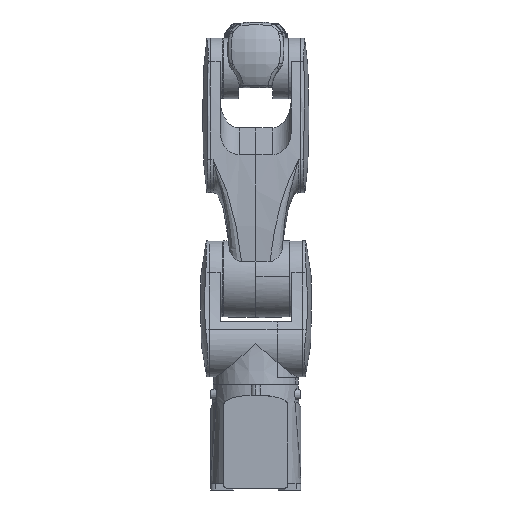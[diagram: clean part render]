
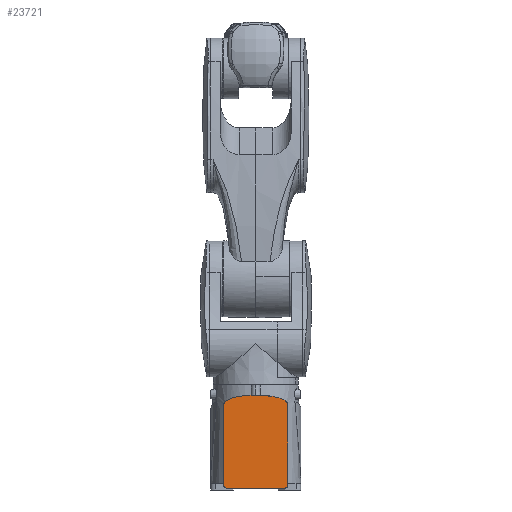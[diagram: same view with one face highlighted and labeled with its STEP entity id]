
A CAD part, left-side view. The second image highlights one B-rep face of the part: STEP entity #23721.
In plain terms, the highlighted planar face has unit normal (-1, 0, 0).
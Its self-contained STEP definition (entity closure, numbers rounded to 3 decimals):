
#442 = CARTESIAN_POINT ( 'NONE',  ( -10.996, 99.464, 230.412 ) ) ;
#1116 = EDGE_CURVE ( 'NONE', #22249, #66871, #10418, .T. ) ;
#4132 = ORIENTED_EDGE ( 'NONE', *, *, #51341, .F. ) ;
#4144 = CIRCLE ( 'NONE', #101593, 6. ) ;
#4316 = CARTESIAN_POINT ( 'NONE',  ( -10.996, 147.475, 233.711 ) ) ;
#5140 = VERTEX_POINT ( 'NONE', #35028 ) ;
#5759 =( BOUNDED_CURVE ( )  B_SPLINE_CURVE ( 2, ( #84926, #72633, #4316 ),
 .UNSPECIFIED., .F., .T. ) 
 B_SPLINE_CURVE_WITH_KNOTS ( ( 3, 3 ),
 ( 0., 0.068 ),
 .UNSPECIFIED. ) 
 CURVE ( )  GEOMETRIC_REPRESENTATION_ITEM ( )  RATIONAL_B_SPLINE_CURVE ( ( 1., 0.707, 1. ) ) 
 REPRESENTATION_ITEM ( '' )  );
#10418 = CIRCLE ( 'NONE', #103291, 6. ) ;
#12180 = CARTESIAN_POINT ( 'NONE',  ( -10.996, 201.475, 43.711 ) ) ;
#15282 = EDGE_CURVE ( 'NONE', #59974, #64603, #101958, .T. ) ;
#15530 = AXIS2_PLACEMENT_3D ( 'NONE', #442, #78252, #109475 ) ;
#15590 = EDGE_CURVE ( 'NONE', #66871, #94779, #143246, .T. ) ;
#18687 = CARTESIAN_POINT ( 'NONE',  ( -10.996, 207.475, 230.412 ) ) ;
#21581 = FACE_OUTER_BOUND ( 'NONE', #125703, .T. ) ;
#22249 = VERTEX_POINT ( 'NONE', #116070 ) ;
#23721 = ADVANCED_FACE ( 'NONE', ( #21581 ), #53556, .F. ) ;
#24033 = CARTESIAN_POINT ( 'NONE',  ( -10.996, 147.475, 233.711 ) ) ;
#28171 = DIRECTION ( 'NONE',  ( 0., 0., 1. ) ) ;
#29873 = EDGE_CURVE ( 'NONE', #64603, #87898, #112108, .T. ) ;
#34018 = ORIENTED_EDGE ( 'NONE', *, *, #1116, .F. ) ;
#34029 = VECTOR ( 'NONE', #136848, 1000. ) ;
#35028 = CARTESIAN_POINT ( 'NONE',  ( -10.996, 207.475, 213.711 ) ) ;
#35443 = DIRECTION ( 'NONE',  ( 1., 0., 0. ) ) ;
#36987 = CARTESIAN_POINT ( 'NONE',  ( -10.996, 132.475, 233.711 ) ) ;
#39082 = LINE ( 'NONE', #18687, #101141 ) ;
#42259 = EDGE_CURVE ( 'NONE', #54701, #5140, #39082, .T. ) ;
#42900 = ORIENTED_EDGE ( 'NONE', *, *, #42259, .F. ) ;
#45147 = CARTESIAN_POINT ( 'NONE',  ( -10.996, 139.975, 37.711 ) ) ;
#47206 = CARTESIAN_POINT ( 'NONE',  ( -10.996, 207.475, 43.711 ) ) ;
#47462 = DIRECTION ( 'NONE',  ( 0., -1., 0. ) ) ;
#47514 = LINE ( 'NONE', #70750, #34029 ) ;
#51341 = EDGE_CURVE ( 'NONE', #87898, #22249, #47514, .T. ) ;
#53556 = PLANE ( 'NONE',  #15530 ) ;
#54622 = DIRECTION ( 'NONE',  ( 1., 0., 0. ) ) ;
#54701 = VERTEX_POINT ( 'NONE', #47206 ) ;
#56318 = VECTOR ( 'NONE', #47462, 1000. ) ;
#57493 = DIRECTION ( 'NONE',  ( 0., 0., 1. ) ) ;
#57648 = CARTESIAN_POINT ( 'NONE',  ( -10.996, 99.464, 233.711 ) ) ;
#59974 = VERTEX_POINT ( 'NONE', #24033 ) ;
#60086 = EDGE_CURVE ( 'NONE', #5140, #59974, #5759, .T. ) ;
#64603 = VERTEX_POINT ( 'NONE', #36987 ) ;
#66871 = VERTEX_POINT ( 'NONE', #115842 ) ;
#70750 = CARTESIAN_POINT ( 'NONE',  ( -10.996, 72.475, 230.412 ) ) ;
#72003 = ORIENTED_EDGE ( 'NONE', *, *, #105123, .F. ) ;
#72633 = CARTESIAN_POINT ( 'NONE',  ( -10.996, 207.475, 233.711 ) ) ;
#76431 = CARTESIAN_POINT ( 'NONE',  ( -10.996, 72.475, 213.711 ) ) ;
#78252 = DIRECTION ( 'NONE',  ( 1., 0., 0. ) ) ;
#79770 = DIRECTION ( 'NONE',  ( 0., 0., -1. ) ) ;
#82139 = DIRECTION ( 'NONE',  ( 0., 1., 0. ) ) ;
#84274 = VECTOR ( 'NONE', #82139, 1000. ) ;
#84926 = CARTESIAN_POINT ( 'NONE',  ( -10.996, 207.475, 213.711 ) ) ;
#87898 = VERTEX_POINT ( 'NONE', #100771 ) ;
#87985 = CARTESIAN_POINT ( 'NONE',  ( -10.996, 201.475, 37.711 ) ) ;
#88735 = CARTESIAN_POINT ( 'NONE',  ( -10.996, 78.475, 43.711 ) ) ;
#94779 = VERTEX_POINT ( 'NONE', #87985 ) ;
#99667 = CARTESIAN_POINT ( 'NONE',  ( -10.996, 132.475, 233.711 ) ) ;
#100771 = CARTESIAN_POINT ( 'NONE',  ( -10.996, 72.475, 213.711 ) ) ;
#101141 = VECTOR ( 'NONE', #28171, 1000. ) ;
#101593 = AXIS2_PLACEMENT_3D ( 'NONE', #12180, #35443, #79770 ) ;
#101958 = LINE ( 'NONE', #57648, #56318 ) ;
#103291 = AXIS2_PLACEMENT_3D ( 'NONE', #88735, #54622, #57493 ) ;
#105123 = EDGE_CURVE ( 'NONE', #94779, #54701, #4144, .T. ) ;
#109475 = DIRECTION ( 'NONE',  ( 0., 1., 0. ) ) ;
#112108 =( BOUNDED_CURVE ( )  B_SPLINE_CURVE ( 2, ( #99667, #119271, #76431 ),
 .UNSPECIFIED., .F., .T. ) 
 B_SPLINE_CURVE_WITH_KNOTS ( ( 3, 3 ),
 ( 0., 0.066 ),
 .UNSPECIFIED. ) 
 CURVE ( )  GEOMETRIC_REPRESENTATION_ITEM ( )  RATIONAL_B_SPLINE_CURVE ( ( 1., 0.707, 1. ) ) 
 REPRESENTATION_ITEM ( '' )  );
#115300 = ORIENTED_EDGE ( 'NONE', *, *, #15590, .F. ) ;
#115842 = CARTESIAN_POINT ( 'NONE',  ( -10.996, 78.475, 37.711 ) ) ;
#116070 = CARTESIAN_POINT ( 'NONE',  ( -10.996, 72.475, 43.711 ) ) ;
#119271 = CARTESIAN_POINT ( 'NONE',  ( -10.996, 72.475, 233.711 ) ) ;
#125703 = EDGE_LOOP ( 'NONE', ( #131968, #135104, #42900, #72003, #115300, #34018, #4132, #135068 ) ) ;
#131968 = ORIENTED_EDGE ( 'NONE', *, *, #15282, .F. ) ;
#135068 = ORIENTED_EDGE ( 'NONE', *, *, #29873, .F. ) ;
#135104 = ORIENTED_EDGE ( 'NONE', *, *, #60086, .F. ) ;
#136848 = DIRECTION ( 'NONE',  ( 0., 0., -1. ) ) ;
#143246 = LINE ( 'NONE', #45147, #84274 ) ;
